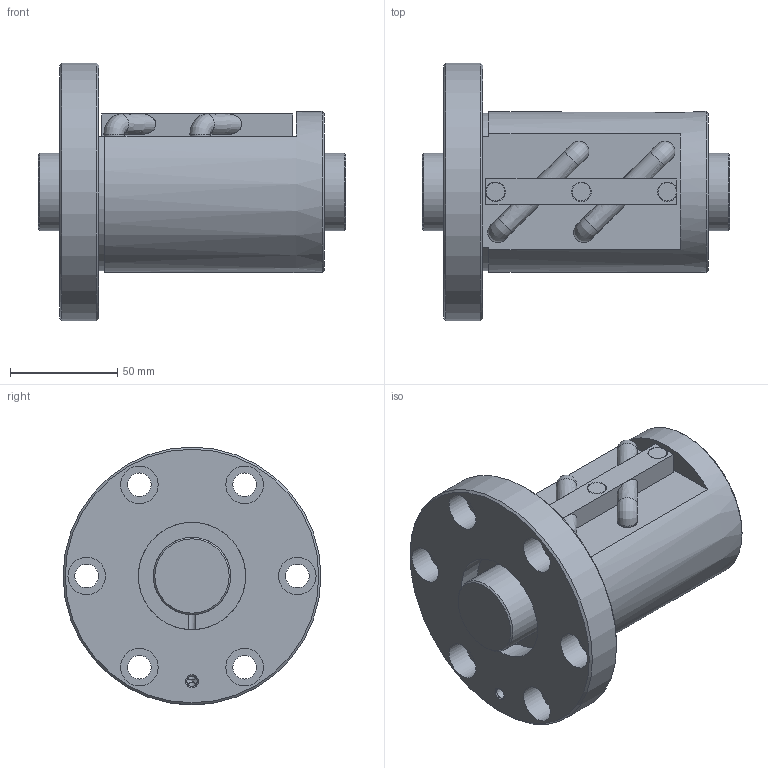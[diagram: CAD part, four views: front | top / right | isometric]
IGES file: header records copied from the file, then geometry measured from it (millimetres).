
Start section: Data from Parasolid IGES Translator 26.0.171, Copyright(c) 2006 Siemens PLM Software. All Rights Reserved.
Global section: file name: BIF3610V-7RRG0+143LC0_000.igs; native system: By Siemens PLM Incorporated; preprocessor: XPlus GENERIC/IGES 26.0.171; author: Noname; organization: Noname; date: 20240715.082342; units: millimetre
Bounding box: 143 x 120 x 120 mm (x, y, z)
Surface area: 94332.8 mm2 (no closed solid volume)
Topology: 0 solids, 0 shells, 99 faces, 487 edges, 442 vertices
Faces by surface type: revolution 58, extrusion 41
